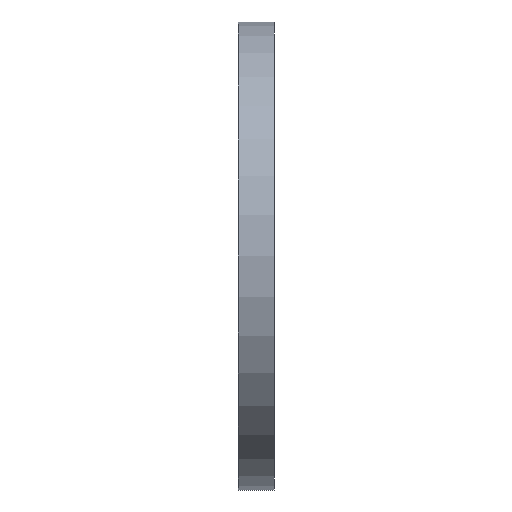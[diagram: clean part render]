
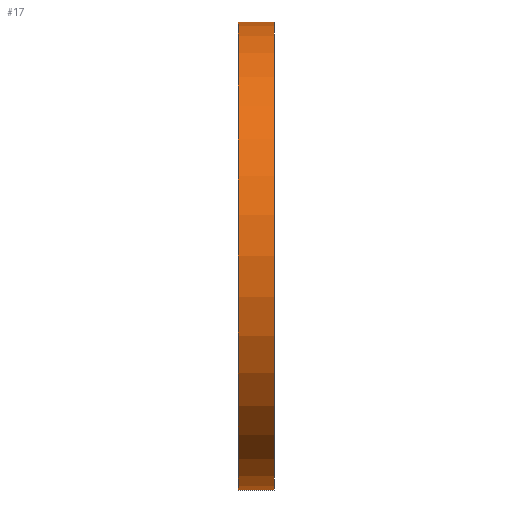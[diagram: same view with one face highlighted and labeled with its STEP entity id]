
A CAD part, front view. The second image highlights one B-rep face of the part: STEP entity #17.
In plain terms, the highlighted cylindrical face has radius 45.5 mm (diameter 91 mm), a full revolution.
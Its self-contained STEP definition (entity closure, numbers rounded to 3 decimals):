
#17 = ADVANCED_FACE('',(#18),#31,.T.);
#18 = FACE_BOUND('',#19,.T.);
#19 = EDGE_LOOP('',(#20,#54,#77,#104));
#20 = ORIENTED_EDGE('',*,*,#21,.F.);
#21 = EDGE_CURVE('',#22,#22,#24,.T.);
#22 = VERTEX_POINT('',#23);
#23 = CARTESIAN_POINT('',(7.,45.5,91.));
#24 = SURFACE_CURVE('',#25,(#30,#42),.PCURVE_S1.);
#25 = CIRCLE('',#26,45.5);
#26 = AXIS2_PLACEMENT_3D('',#27,#28,#29);
#27 = CARTESIAN_POINT('',(7.,45.5,45.5));
#28 = DIRECTION('',(1.,0.,0.));
#29 = DIRECTION('',(-0.,0.,1.));
#30 = PCURVE('',#31,#36);
#31 = CYLINDRICAL_SURFACE('',#32,45.5);
#32 = AXIS2_PLACEMENT_3D('',#33,#34,#35);
#33 = CARTESIAN_POINT('',(0.,45.5,45.5));
#34 = DIRECTION('',(1.,0.,0.));
#35 = DIRECTION('',(-0.,0.,1.));
#36 = DEFINITIONAL_REPRESENTATION('',(#37),#41);
#37 = LINE('',#38,#39);
#38 = CARTESIAN_POINT('',(0.,7.));
#39 = VECTOR('',#40,1.);
#40 = DIRECTION('',(1.,0.));
#41 = ( GEOMETRIC_REPRESENTATION_CONTEXT(2) 
PARAMETRIC_REPRESENTATION_CONTEXT() REPRESENTATION_CONTEXT('2D SPACE',''
  ) );
#42 = PCURVE('',#43,#48);
#43 = PLANE('',#44);
#44 = AXIS2_PLACEMENT_3D('',#45,#46,#47);
#45 = CARTESIAN_POINT('',(7.,45.5,45.5));
#46 = DIRECTION('',(1.,0.,0.));
#47 = DIRECTION('',(-0.,0.,1.));
#48 = DEFINITIONAL_REPRESENTATION('',(#49),#53);
#49 = CIRCLE('',#50,45.5);
#50 = AXIS2_PLACEMENT_2D('',#51,#52);
#51 = CARTESIAN_POINT('',(0.,0.));
#52 = DIRECTION('',(1.,0.));
#53 = ( GEOMETRIC_REPRESENTATION_CONTEXT(2) 
PARAMETRIC_REPRESENTATION_CONTEXT() REPRESENTATION_CONTEXT('2D SPACE',''
  ) );
#54 = ORIENTED_EDGE('',*,*,#55,.F.);
#55 = EDGE_CURVE('',#56,#22,#58,.T.);
#56 = VERTEX_POINT('',#57);
#57 = CARTESIAN_POINT('',(0.,45.5,91.));
#58 = SEAM_CURVE('',#59,(#63,#70),.PCURVE_S1.);
#59 = LINE('',#60,#61);
#60 = CARTESIAN_POINT('',(0.,45.5,91.));
#61 = VECTOR('',#62,1.);
#62 = DIRECTION('',(1.,0.,0.));
#63 = PCURVE('',#31,#64);
#64 = DEFINITIONAL_REPRESENTATION('',(#65),#69);
#65 = LINE('',#66,#67);
#66 = CARTESIAN_POINT('',(6.283,-0.));
#67 = VECTOR('',#68,1.);
#68 = DIRECTION('',(0.,1.));
#69 = ( GEOMETRIC_REPRESENTATION_CONTEXT(2) 
PARAMETRIC_REPRESENTATION_CONTEXT() REPRESENTATION_CONTEXT('2D SPACE',''
  ) );
#70 = PCURVE('',#31,#71);
#71 = DEFINITIONAL_REPRESENTATION('',(#72),#76);
#72 = LINE('',#73,#74);
#73 = CARTESIAN_POINT('',(0.,-0.));
#74 = VECTOR('',#75,1.);
#75 = DIRECTION('',(0.,1.));
#76 = ( GEOMETRIC_REPRESENTATION_CONTEXT(2) 
PARAMETRIC_REPRESENTATION_CONTEXT() REPRESENTATION_CONTEXT('2D SPACE',''
  ) );
#77 = ORIENTED_EDGE('',*,*,#78,.T.);
#78 = EDGE_CURVE('',#56,#56,#79,.T.);
#79 = SURFACE_CURVE('',#80,(#85,#92),.PCURVE_S1.);
#80 = CIRCLE('',#81,45.5);
#81 = AXIS2_PLACEMENT_3D('',#82,#83,#84);
#82 = CARTESIAN_POINT('',(0.,45.5,45.5));
#83 = DIRECTION('',(1.,0.,0.));
#84 = DIRECTION('',(-0.,0.,1.));
#85 = PCURVE('',#31,#86);
#86 = DEFINITIONAL_REPRESENTATION('',(#87),#91);
#87 = LINE('',#88,#89);
#88 = CARTESIAN_POINT('',(0.,0.));
#89 = VECTOR('',#90,1.);
#90 = DIRECTION('',(1.,0.));
#91 = ( GEOMETRIC_REPRESENTATION_CONTEXT(2) 
PARAMETRIC_REPRESENTATION_CONTEXT() REPRESENTATION_CONTEXT('2D SPACE',''
  ) );
#92 = PCURVE('',#93,#98);
#93 = PLANE('',#94);
#94 = AXIS2_PLACEMENT_3D('',#95,#96,#97);
#95 = CARTESIAN_POINT('',(0.,45.5,45.5));
#96 = DIRECTION('',(1.,0.,0.));
#97 = DIRECTION('',(-0.,0.,1.));
#98 = DEFINITIONAL_REPRESENTATION('',(#99),#103);
#99 = CIRCLE('',#100,45.5);
#100 = AXIS2_PLACEMENT_2D('',#101,#102);
#101 = CARTESIAN_POINT('',(0.,0.));
#102 = DIRECTION('',(1.,0.));
#103 = ( GEOMETRIC_REPRESENTATION_CONTEXT(2) 
PARAMETRIC_REPRESENTATION_CONTEXT() REPRESENTATION_CONTEXT('2D SPACE',''
  ) );
#104 = ORIENTED_EDGE('',*,*,#55,.T.);
